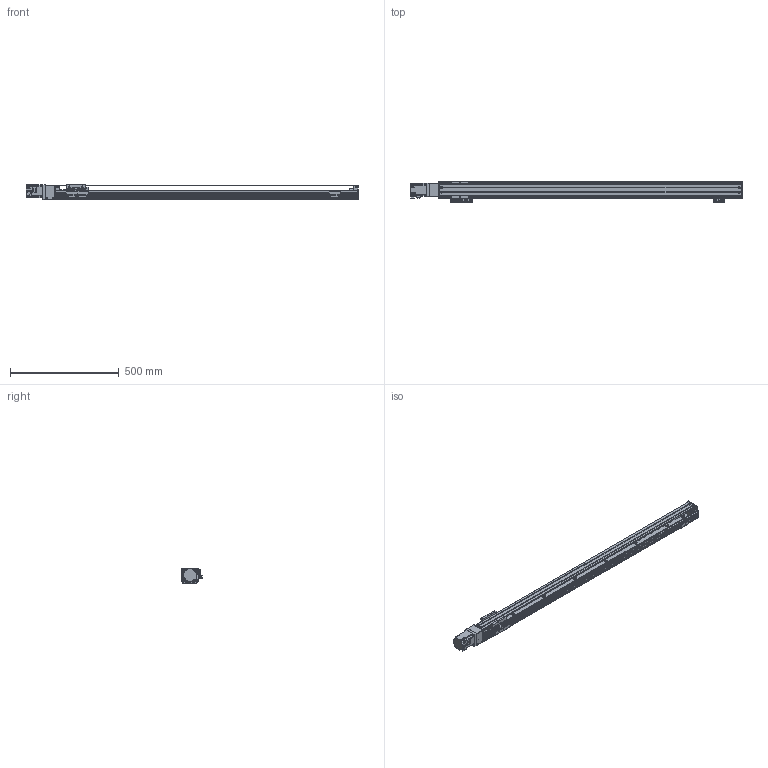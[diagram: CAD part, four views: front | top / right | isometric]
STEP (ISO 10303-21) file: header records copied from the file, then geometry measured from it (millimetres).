
FILE_DESCRIPTION(/* description */ (''),/* implementation_level */ '2;1');
FILE_NAME(/* name */ '\\192.168.0.160\disk1\HAN SHIN Master\B-설계부문\C-표준\B-2024년\BC02-표준도면\+로봇 개선표준도면\표준 승인도 작업 폴더\3D\HG75\HG75직렬\HG75-S20-N1B-1200-R10.stp',/* time_stamp */ '2024-02-01T16:41:18+09:00',/* author */ ('User'),/* organization */ (''),/* preprocessor_version */ 'ST-DEVELOPER v18.1',/* originating_system */ 'Autodesk Inventor 2022',/* authorisation */ '');
FILE_SCHEMA (('AUTOMOTIVE_DESIGN { 1 0 10303 214 3 1 1 }'));
Length unit declared in the file: millimetre
Products named in the file (21): HG75-S20-N1B-0500-R10 - 간소화; BASE; HR75 FRONT BLOCK; HR75 REAR COVER-TENTION; HR75 TENSION REAR BLOCK; HG3UPCOV001; H 15F_BLOCK; COUPLING COVER; HR75 REAR COVER; HR65,75 SENSOR DOG; HG90STOPPER - 20L; HG90STOPPER - 27L; hg-kr23_; HG75 S MOTOR PLATE-B; HG75 S MOTOR PLATE-M; hsr_ftht_A-M6F_grease_nipple_joint; NIPPLE CAP(신규); HR75 W TABLE; LMKE1520 NUT; SENSOR BRK(EE-SX674A); EE_SX674A
Assembly tree (26 placements, depth 2):
  HG75-S20-N1B-0500-R10 - 간소화
    BASE
    HR75 FRONT BLOCK
    HR75 REAR COVER-TENTION
    SENSOR BRK(EE-SX674A)  x3
    EE_SX674A  x3
    HR75 TENSION REAR BLOCK
    HG3UPCOV001
    H 15F_BLOCK
    COUPLING COVER
    HR75 REAR COVER
    HR65,75 SENSOR DOG
    HG90STOPPER - 20L
    HG90STOPPER - 27L
    hg-kr23_
    HG75 S MOTOR PLATE-B
    HG75 S MOTOR PLATE-M
    hsr_ftht_A-M6F_grease_nipple_joint  x2
    NIPPLE CAP(신규)  x2
    HR75 W TABLE
    LMKE1520 NUT
Bounding box: 1527.6 x 94 x 73 mm (x, y, z)
Volume: 2091287.6 mm3; surface area: 921640.1 mm2
Topology: 26 solids, 26 shells, 1492 faces, 3981 edges, 2614 vertices
Faces by surface type: plane 744, cylinder 587, cone 125, sphere 16, torus 12, bspline 8
Full cylindrical faces by diameter (mm): 2 x4, 2.013 x2, 2.459 x12, 3 x4, 3.242 x30, 3.5 x6, 4.134 x53, 4.5 x18, 4.917 x5, 5 x38, 5.5 x37, 5.6 x10, 5.8 x4, 5.9 x8, 6 x6, 6.5 x4, 9.5 x33, 14 x1, 15 x3, 17 x1, 25 x2, 28 x1, 32 x2, 33.7 x1, 34 x1, 40 x1, 50 x2
Entity records: 41161 total; most frequent: CARTESIAN_POINT 7846, DIRECTION 6922, ORIENTED_EDGE 6522, EDGE_CURVE 3261, AXIS2_PLACEMENT_3D 2493, VERTEX_POINT 2175, LINE 1936, VECTOR 1936
